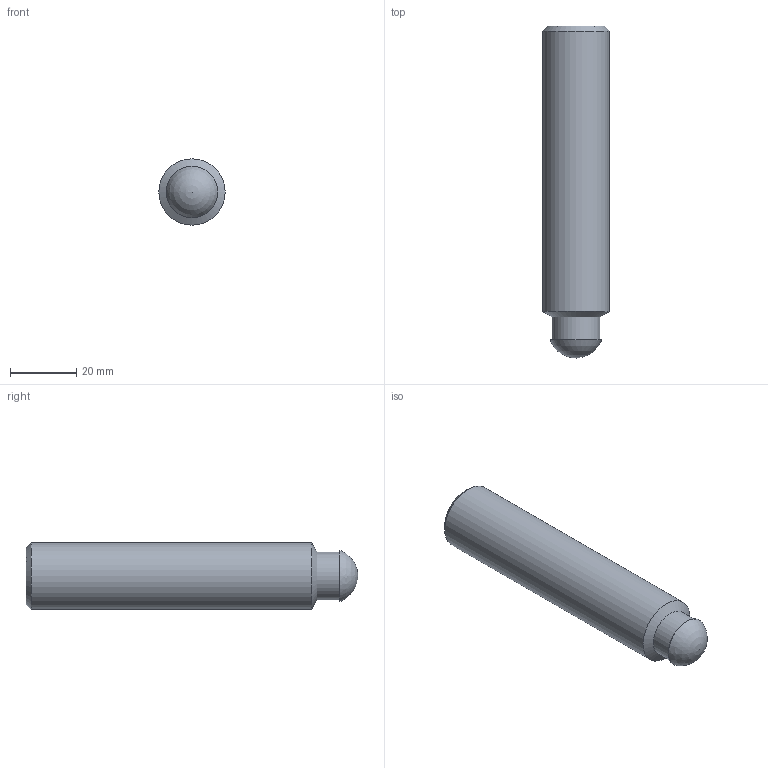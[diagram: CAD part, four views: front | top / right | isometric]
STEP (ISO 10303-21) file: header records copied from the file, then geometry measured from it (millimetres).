
FILE_DESCRIPTION( ( 'STEP AP203' ), '1' );
FILE_NAME( 'C:/Temp/Ganter_Step_05_03_2020/data/3_2/din6332/din6332_zb/Grub screw DIN 6332-M20-100-SKN-ZB.stp', '2020-03-13T05:16:38', ( 'License CC BY-ND 4.0' ), ( 'CADENAS' ), ' ', 'PARTsolutions', ' ' );
FILE_SCHEMA( ( 'CONFIG_CONTROL_DESIGN' ) );
Length unit declared in the file: millimetre
Products named in the file (1): _Grub screw DIN 6332-M20-100-SKN-ZB
Bounding box: 20 x 100 x 20 mm (x, y, z)
Volume: 28624.3 mm3; surface area: 6628.2 mm2
Topology: 1 solids, 1 shells, 15 faces, 33 edges, 21 vertices
Faces by surface type: plane 9, cylinder 3, cone 2, sphere 1
Full cylindrical faces by diameter (mm): 14.4 x1, 15.5 x1, 20 x1
Entity records: 410 total; most frequent: DIRECTION 64, CARTESIAN_POINT 61, ORIENTED_EDGE 50, EDGE_CURVE 25, AXIS2_PLACEMENT_3D 23, EDGE_LOOP 22, VERTEX_POINT 20, FACE_OUTER_BOUND 18
